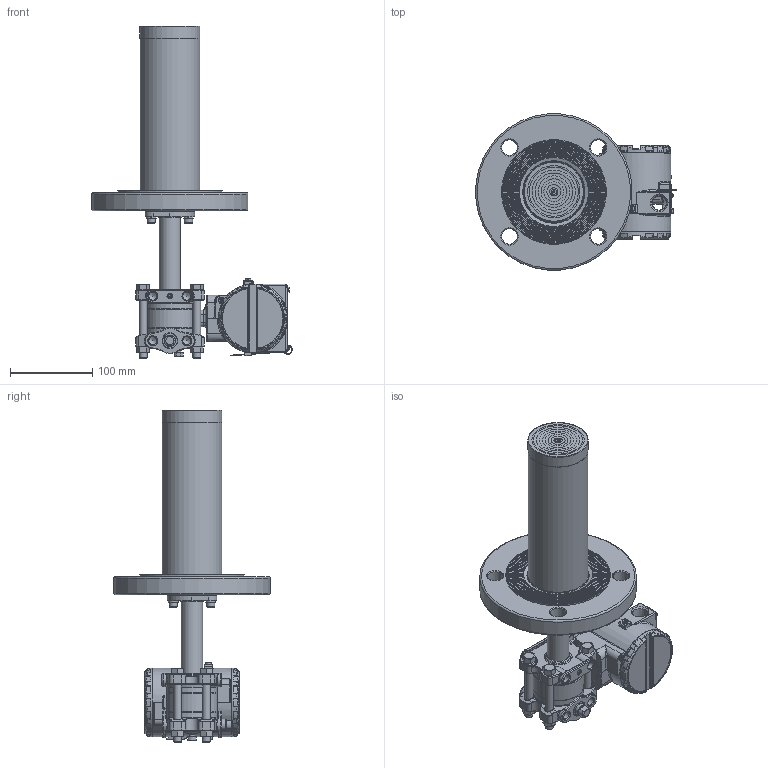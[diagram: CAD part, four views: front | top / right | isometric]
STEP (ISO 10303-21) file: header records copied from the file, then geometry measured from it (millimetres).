
FILE_DESCRIPTION(/* description */ (''),/* implementation_level */ '2;1');
FILE_NAME(/* name */ 'F:\Area\Desenvolvimento_2\Projects\Sensor\projetos\LD30X\montagens 3d - clientes\SELO NIVEL\LD30XL 3-150 RF ext 200 ref 1-4NPT purga acima.stp',/* time_stamp */ '2023-02-10T16:41:13-03:00',/* author */ ('inventor02'),/* organization */ (''),/* preprocessor_version */ 'ST-DEVELOPER v17',/* originating_system */ 'Autodesk Inventor 2019',/* authorisation */ '');
FILE_SCHEMA (('CONFIG_CONTROL_DESIGN'));
Products named in the file (41): LD30XL 3-150 RF ext 200 ref 1-4NPT purga acima; 204-0301-L-3 150 RF ext 200 purga acima; nivel fx3 com baixa diferencial 1-4NPT purga acima; involucro fx0-3 apos a usinagem final; flange diferencial std purga; 101-C-7484-01 flange selo nivel VR; 201-A-0504-tubo união teste 1; bujao 1-4NPT; Sangria; Porca 3-8 x 16 UNC; Paraf. 3-8 x 16 UNC; adaptação tubo x flanges 1-1-2 a 4pol; 101-B-0161-anel cortado do tubo - teste1; 101-B-0162-flange fixação tubo; ANSI B18.3.1M - M6x1 x 16; DIN 127 - A 6; flange 3 150 ext 200; 101-C-0111-14; 096-B-0199-14; 101-B-7701-02 ext 3-200; carcaça vazia com tampas e plaqueta; carcaça LD inox sem letras; Subconjunto plaqueta 300; Plaqueta transmissor; Parafuso da Plaqueta; Rebite da Plaqueta; 096-A-0169-03; 101-A-0502-01; Chapa aterramento externo; ISO 1207 - M4 x 8; DIN 915 - M6 x 10; ANSI B18.3.1M - M4x0,7 x 8; Subconjunto tampa com visor aluminio; tampa pintada; VIDRO DO VISOR; oring 41x1 vidro tampa; Trava do vidro da tampa com visor; trava do vidro VH256; Subconjunto tampa sem visor-aluminio; tampa cega 300 pintada p0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
Assembly tree (51 placements, depth 4):
  LD30XL 3-150 RF ext 200 ref 1-4NPT purga acima
    204-0301-L-3 150 RF ext 200 purga acima
      nivel fx3 com baixa diferencial 1-4NPT purga acima
        involucro fx0-3 apos a usinagem final
        flange diferencial std purga
        101-C-7484-01 flange selo nivel VR
        201-A-0504-tubo união teste 1
        DIN 915 - M6 x 10
        bujao 1-4NPT
        Sangria
        Porca 3-8 x 16 UNC  x4
        Paraf. 3-8 x 16 UNC  x4
      adaptação tubo x flanges 1-1-2 a 4pol
        101-B-0161-anel cortado do tubo - teste1
        101-B-0162-flange fixação tubo
        ANSI B18.3.1M - M6x1 x 16  x2
        DIN 127 - A 6  x2
      flange 3 150 ext 200
        101-C-0111-14
        096-B-0199-14
        101-B-7701-02 ext 3-200
    carcaça vazia com tampas e plaqueta
      carcaça LD inox sem letras
      Subconjunto plaqueta 300
        Plaqueta transmissor
        Parafuso da Plaqueta
        Rebite da Plaqueta
        096-A-0169-03
        101-A-0502-01
      Chapa aterramento externo
      ISO 1207 - M4 x 8
      DIN 915 - M6 x 10
      ANSI B18.3.1M - M4x0,7 x 8  x2
      Subconjunto tampa com visor aluminio
        tampa pintada
        VIDRO DO VISOR
        oring 41x1 vidro tampa
        Trava do vidro da tampa com visor
        trava do vidro VH256
        00034775-0
      Subconjunto tampa sem visor-aluminio
        tampa cega 300 pintada p0
        00034775-0
Bounding box: 242.92 x 189.28 x 402.6 mm (x, y, z)
Volume: 1401268 mm3; surface area: 425022.5 mm2
Topology: 43 solids, 43 shells, 2761 faces, 6596 edges, 3909 vertices
Faces by surface type: bspline 667, cylinder 656, plane 578, torus 486, cone 248, sphere 126
Full cylindrical faces by diameter (mm): 2 x4, 2.1 x2, 2.459 x5, 2.5 x1, 2.642 x1, 2.7 x1, 2.8 x1, 3 x4, 3.242 x4, 3.5 x5, 3.571 x1, 4 x5, 4.3 x1, 4.4 x1, 4.917 x4, 5 x1, 5.5 x3, 6 x6, 6.647 x1, 7 x7, 7.087 x2, 7.6 x2, 7.798 x4, 8 x1, 8.7 x2, 9.525 x4, 9.728 x6, 10 x2, 10.5 x8, 10.719 x2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
Entity records: 95173 total; most frequent: CARTESIAN_POINT 34741, DIRECTION 12491, ORIENTED_EDGE 12372, EDGE_CURVE 6186, AXIS2_PLACEMENT_3D 5524, VERTEX_POINT 3715, CIRCLE 3274, EDGE_LOOP 2819
